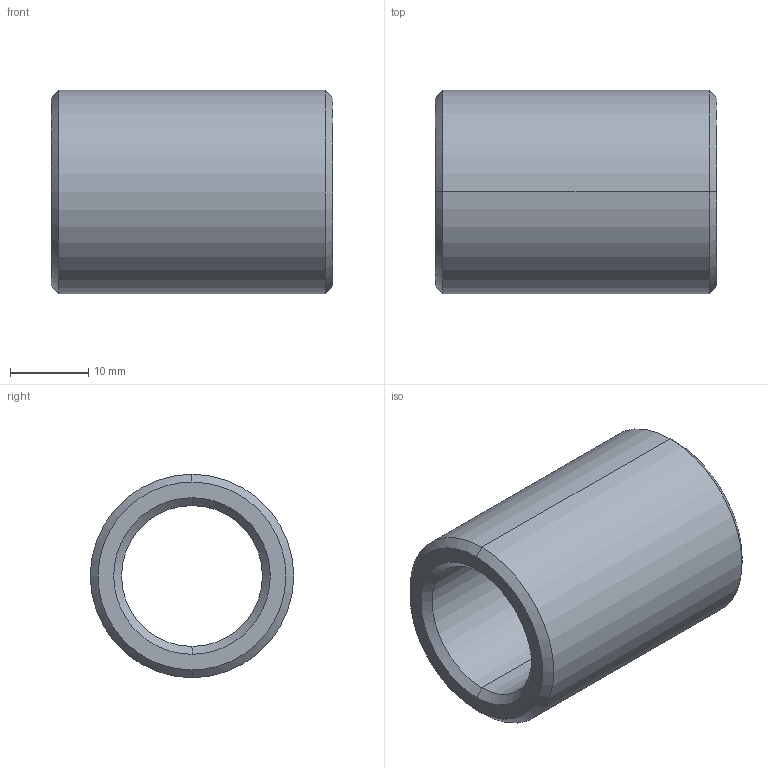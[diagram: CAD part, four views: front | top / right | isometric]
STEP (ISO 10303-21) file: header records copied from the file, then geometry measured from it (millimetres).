
FILE_DESCRIPTION(('CATIA V5 STEP Exchange'),'2;1');
FILE_NAME('C:\Users\Utente\Desktop\IO LAVORO\3D X SITO CF\X SITO\PLASTICA\352\352-18X36.stp','2021-04-12T15:41:11+00:00',('none'),('none'),'CATIA Version 5 Release 20 GA (IN-10)','CATIA V5 STEP AP203','none');
FILE_SCHEMA(('CONFIG_CONTROL_DESIGN'));
Length unit declared in the file: millimetre
Products named in the file (1): 352-18X36
Bounding box: 36 x 26 x 26 mm (x, y, z)
Volume: 9831.2 mm3; surface area: 5375.3 mm2
Topology: 1 solids, 1 shells, 14 faces, 44 edges, 32 vertices
Faces by surface type: cone 6, cylinder 4, plane 2, torus 2
Entity records: 634 total; most frequent: CARTESIAN_POINT 203, ORIENTED_EDGE 88, DIRECTION 64, EDGE_CURVE 44, AXIS2_PLACEMENT_3D 41, VERTEX_POINT 32, CIRCLE 26, EDGE_LOOP 16
